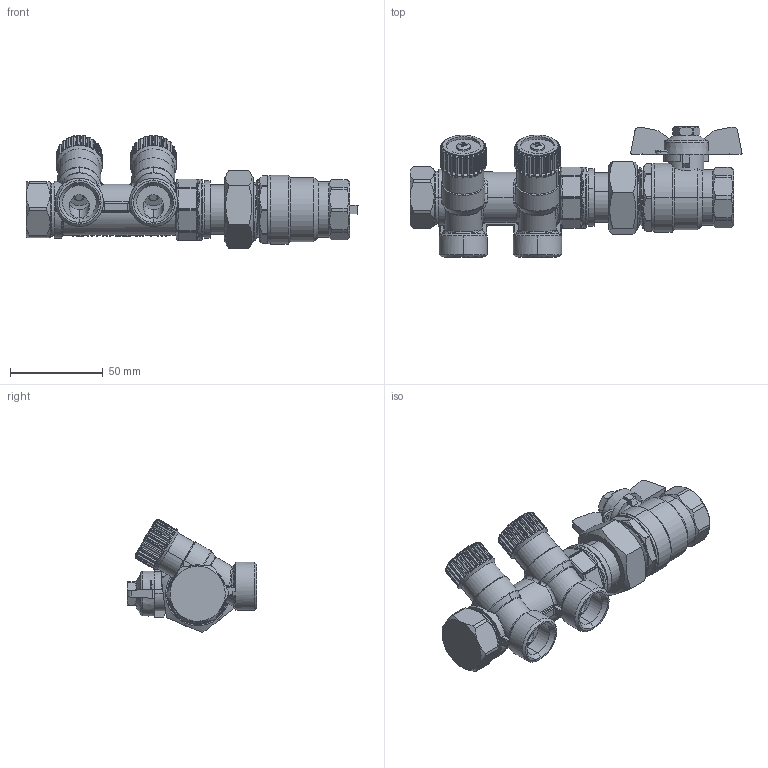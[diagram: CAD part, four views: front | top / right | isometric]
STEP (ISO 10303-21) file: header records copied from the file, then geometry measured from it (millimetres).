
FILE_DESCRIPTION (( 'STEP AP214' ), '1' );
FILE_NAME ('ADM_rozdzielacz_do_wody_pitnej_2240200_0_3D_AFRISO.STEP', '2025-11-24T14:17:54', ( '' ), ( '' ), 'SwSTEP 2.0', 'SolidWorks 2024', '' );
FILE_SCHEMA (( 'AUTOMOTIVE_DESIGN' ));
Length unit declared in the file: millimetre
Products named in the file (26): Asta vitone collettori; o_ring_ADM; Screw_ADM; Body_screw_In; raczka_ADM; Guarnizione piatta Otturatore; uszczelnienie1; Otturatore Vitone Coll; OR Corpo Vitone_montato; 4761624; OR Asta; Nut_screw; 68512802FR; ADM_rozdzielacz_do_wody_pitnej_2240200_0_3D_AFRISO; 9446820; 3424693; M8_ADM; ring_ADM; Seeger a filo Vitone; 9346615; Corpo Vitone Coll; 68512802FRLN; ADM_Nut; 68512802FRS; zawor_korpus_ADM; Zawor_ADM
Assembly tree (30 placements, depth 5):
  ADM_rozdzielacz_do_wody_pitnej_2240200_0_3D_AFRISO
    uszczelnienie1
    ADM_Nut
    Zawor_ADM
      zawor_korpus_ADM
      raczka_ADM
      M8_ADM
      Screw_ADM
        Body_screw_In
        Nut_screw
        o_ring_ADM  x2
        ring_ADM
    68512802FR
      68512802FRS
        9446820  x2
          Corpo Vitone Coll
          Otturatore Vitone Coll
          Asta vitone collettori
          Seeger a filo Vitone
          Guarnizione piatta Otturatore
          OR Asta
          OR Corpo Vitone_montato
        68512802FRLN
        9346615  x2
        4761624  x2
        3424693
Bounding box: 179.03 x 70.1 x 61.18 mm (x, y, z)
Volume: 110820 mm3; surface area: 81260.3 mm2
Topology: 34 solids, 34 shells, 2469 faces, 6283 edges, 3936 vertices
Faces by surface type: cylinder 863, plane 759, bspline 383, torus 227, cone 219, sphere 18
Entity records: 96386 total; most frequent: CARTESIAN_POINT 53242, ORIENTED_EDGE 8992, DIRECTION 7285, EDGE_CURVE 4496, AXIS2_PLACEMENT_3D 2901, VERTEX_POINT 2820, EDGE_LOOP 1878, FACE_OUTER_BOUND 1777
